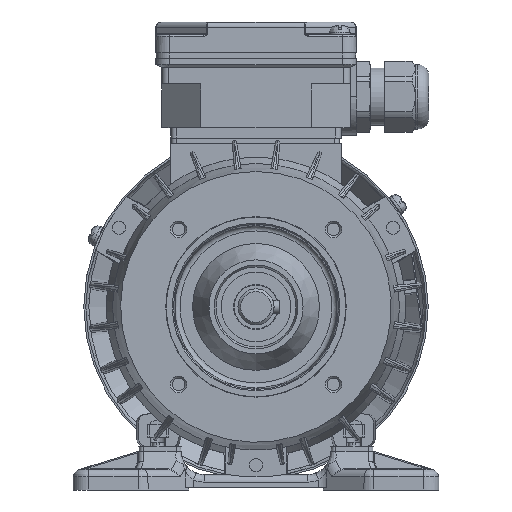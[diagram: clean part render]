
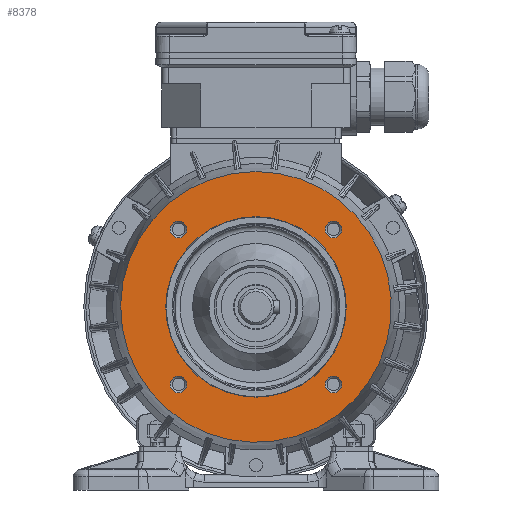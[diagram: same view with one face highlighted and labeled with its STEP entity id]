
A CAD part, front view. The second image highlights one B-rep face of the part: STEP entity #8378.
In plain terms, the highlighted planar face has unit normal (0, -1, 0) as drawn and (-1, 0, 0) by its records, which use the part's own axes.
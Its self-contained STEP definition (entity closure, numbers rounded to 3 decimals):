
#8378 = ADVANCED_FACE( '', ( #16760, #16761, #16762, #16763, #16764, #16765 ), #16766, .F. );
#16760 = FACE_BOUND( '', #66987, .T. );
#16761 = FACE_BOUND( '', #66988, .T. );
#16762 = FACE_BOUND( '', #66989, .T. );
#16763 = FACE_BOUND( '', #66990, .T. );
#16764 = FACE_BOUND( '', #66991, .T. );
#16765 = FACE_OUTER_BOUND( '', #66992, .T. );
#16766 = PLANE( '', #66993 );
#66987 = EDGE_LOOP( '', ( #90324 ) );
#66988 = EDGE_LOOP( '', ( #90325 ) );
#66989 = EDGE_LOOP( '', ( #90326 ) );
#66990 = EDGE_LOOP( '', ( #90327 ) );
#66991 = EDGE_LOOP( '', ( #90328 ) );
#66992 = EDGE_LOOP( '', ( #90329 ) );
#66993 = AXIS2_PLACEMENT_3D( '', #90330, #90331, #90332 );
#90324 = ORIENTED_EDGE( '', *, *, #95604, .T. );
#90325 = ORIENTED_EDGE( '', *, *, #97046, .T. );
#90326 = ORIENTED_EDGE( '', *, *, #92682, .T. );
#90327 = ORIENTED_EDGE( '', *, *, #99050, .T. );
#90328 = ORIENTED_EDGE( '', *, *, #93094, .F. );
#90329 = ORIENTED_EDGE( '', *, *, #96063, .T. );
#90330 = CARTESIAN_POINT( '', ( 2.5, 0., 52.5 ) );
#90331 = DIRECTION( '', ( 1., 0., 0. ) );
#90332 = DIRECTION( '', ( 0., 0., -1. ) );
#92682 = EDGE_CURVE( '', #103493, #103493, #103494, .T. );
#93094 = EDGE_CURVE( '', #104200, #104200, #104201, .T. );
#95604 = EDGE_CURVE( '', #108130, #108130, #108131, .T. );
#96063 = EDGE_CURVE( '', #108823, #108823, #108824, .T. );
#97046 = EDGE_CURVE( '', #110183, #110183, #110184, .T. );
#99050 = EDGE_CURVE( '', #112693, #112693, #112694, .T. );
#103493 = VERTEX_POINT( '', #126342 );
#103494 = CIRCLE( '', #126343, 3.259 );
#104200 = VERTEX_POINT( '', #128315 );
#104201 = CIRCLE( '', #128316, 35. );
#108130 = VERTEX_POINT( '', #142888 );
#108131 = CIRCLE( '', #142889, 3.259 );
#108823 = VERTEX_POINT( '', #145746 );
#108824 = CIRCLE( '', #145747, 52.5 );
#110183 = VERTEX_POINT( '', #150997 );
#110184 = CIRCLE( '', #150998, 3.259 );
#112693 = VERTEX_POINT( '', #159737 );
#112694 = CIRCLE( '', #159738, 3.259 );
#126342 = CARTESIAN_POINT( '', ( 2.5, -33.311, -30.052 ) );
#126343 = AXIS2_PLACEMENT_3D( '', #165005, #165006, #165007 );
#128315 = CARTESIAN_POINT( '', ( 2.5, 0., 35. ) );
#128316 = AXIS2_PLACEMENT_3D( '', #165505, #165506, #165507 );
#142888 = CARTESIAN_POINT( '', ( 2.5, 26.794, 30.052 ) );
#142889 = AXIS2_PLACEMENT_3D( '', #168218, #168219, #168220 );
#145746 = CARTESIAN_POINT( '', ( 2.5, 0., 52.5 ) );
#145747 = AXIS2_PLACEMENT_3D( '', #168797, #168798, #168799 );
#150997 = CARTESIAN_POINT( '', ( 2.5, 26.794, -30.052 ) );
#150998 = AXIS2_PLACEMENT_3D( '', #169741, #169742, #169743 );
#159737 = CARTESIAN_POINT( '', ( 2.5, -33.311, 30.052 ) );
#159738 = AXIS2_PLACEMENT_3D( '', #171726, #171727, #171728 );
#165005 = CARTESIAN_POINT( '', ( 2.5, -30.052, -30.052 ) );
#165006 = DIRECTION( '', ( 1., 0., 0. ) );
#165007 = DIRECTION( '', ( 0., -1., 0. ) );
#165505 = CARTESIAN_POINT( '', ( 2.5, 0., 0. ) );
#165506 = DIRECTION( '', ( -1., 0., 0. ) );
#165507 = DIRECTION( '', ( 0., 0., 1. ) );
#168218 = CARTESIAN_POINT( '', ( 2.5, 30.052, 30.052 ) );
#168219 = DIRECTION( '', ( 1., 0., 0. ) );
#168220 = DIRECTION( '', ( 0., -1., 0. ) );
#168797 = CARTESIAN_POINT( '', ( 2.5, 0., 0. ) );
#168798 = DIRECTION( '', ( -1., 0., 0. ) );
#168799 = DIRECTION( '', ( 0., 0., 1. ) );
#169741 = CARTESIAN_POINT( '', ( 2.5, 30.052, -30.052 ) );
#169742 = DIRECTION( '', ( 1., 0., 0. ) );
#169743 = DIRECTION( '', ( 0., -1., 0. ) );
#171726 = CARTESIAN_POINT( '', ( 2.5, -30.052, 30.052 ) );
#171727 = DIRECTION( '', ( 1., 0., 0. ) );
#171728 = DIRECTION( '', ( 0., -1., 0. ) );
